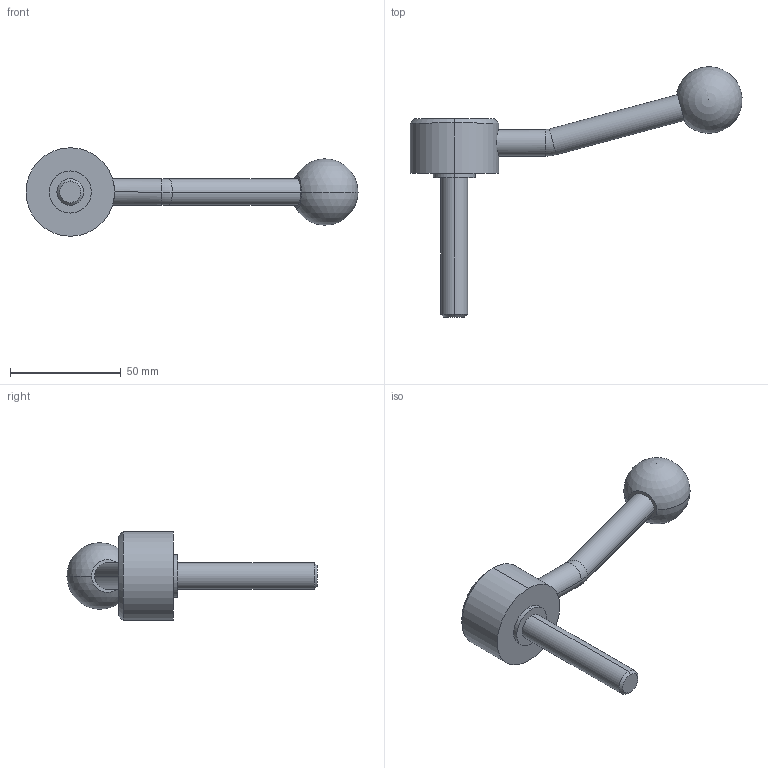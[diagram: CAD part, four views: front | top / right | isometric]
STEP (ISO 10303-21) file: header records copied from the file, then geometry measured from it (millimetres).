
FILE_DESCRIPTION (( 'STEP AP214' ), '1' );
FILE_NAME ('125.5-40-M12-63-E.step', '2020-02-18T11:38:10', ( '' ), ( '' ), 'SwSTEP 2.0', 'SolidWorks 2019', '' );
FILE_SCHEMA (( 'AUTOMOTIVE_DESIGN' ));
Length unit declared in the file: millimetre
Products named in the file (1): 125.5-40-M12-63-E
Bounding box: 149.94 x 112.94 x 40 mm (x, y, z)
Volume: 61872.9 mm3; surface area: 13710.2 mm2
Topology: 1 solids, 1 shells, 26 faces, 55 edges, 34 vertices
Faces by surface type: cylinder 12, plane 6, cone 4, torus 2, sphere 2
Entity records: 850 total; most frequent: CARTESIAN_POINT 192, DIRECTION 134, ORIENTED_EDGE 100, AXIS2_PLACEMENT_3D 59, EDGE_CURVE 50, CIRCLE 32, EDGE_LOOP 31, VERTEX_POINT 31
